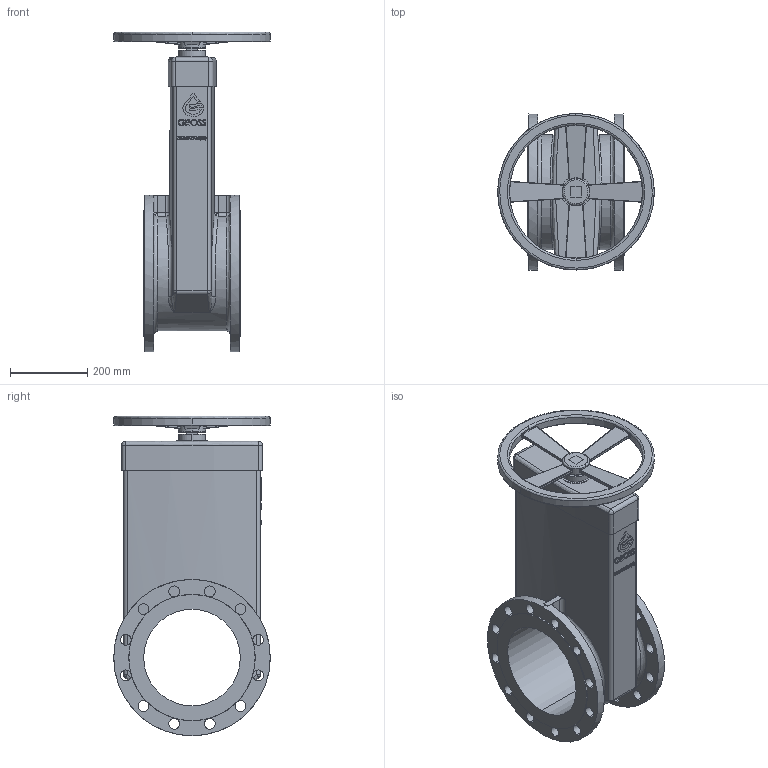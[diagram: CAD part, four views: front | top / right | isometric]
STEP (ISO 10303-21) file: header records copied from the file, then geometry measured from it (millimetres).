
FILE_DESCRIPTION (( 'STEP AP214' ), '1' );
FILE_NAME ('Çàäâèæêà ñ îáðåçèíåííûì êëèíîì GROSS PN16(10) DN250.STEP', '2014-11-04T14:28:54', ( 'Kostya' ), ( '' ), 'SwSTEP 2.0', 'SolidWorks 2013', '' );
FILE_SCHEMA (( 'AUTOMOTIVE_DESIGN' ));
Length unit declared in the file: millimetre
Products named in the file (1): Çàäâèæêà ñ îáðåçèíåííûì êëèíîì GROSS PN16(10) DN250
Bounding box: 405 x 405 x 827.5 mm (x, y, z)
Volume: 27447444.1 mm3; surface area: 1370331.9 mm2
Topology: 2 solids, 2 shells, 650 faces, 1782 edges, 1138 vertices
Faces by surface type: bspline 325, plane 185, cylinder 140
Entity records: 38847 total; most frequent: CARTESIAN_POINT 24348, ORIENTED_EDGE 3540, DIRECTION 2167, EDGE_CURVE 1770, VERTEX_POINT 1136, VECTOR 737, LINE 737, EDGE_LOOP 722
